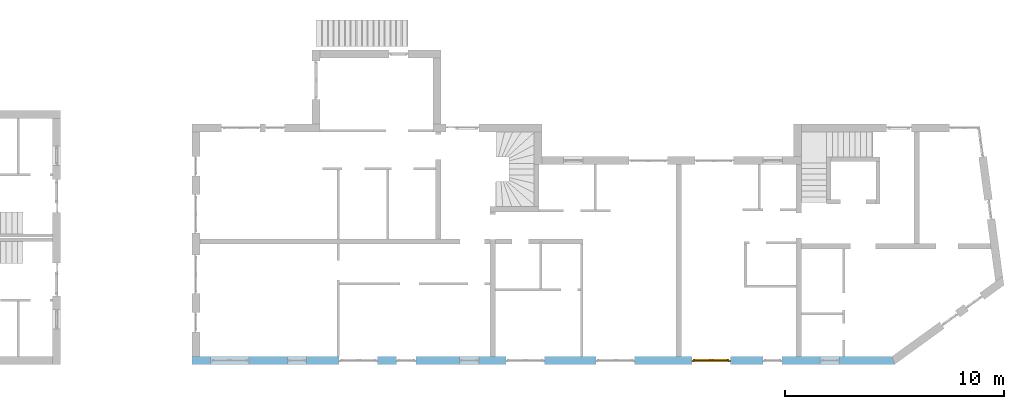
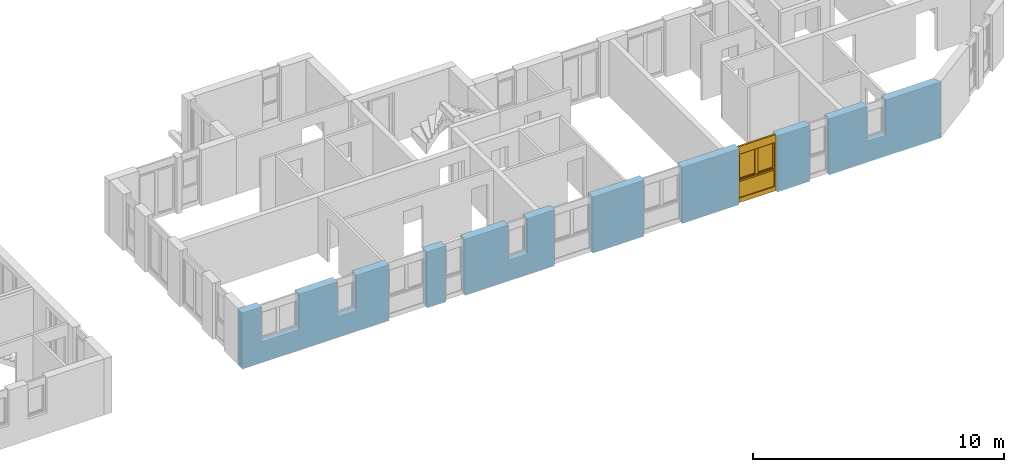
# One storey, part 24 of 41: 1 window, 10 openings, plus 1 element that does not belong to this part.
"""IFC2X3 building model written with IfcOpenShell, lengths in millimetres."""

from ifc_helpers import new_model, entity, si_unit, converted_unit, frame, frame_2d, origin, origin_with_axes, place, context, subcontext, project, spatial, polyline, rectangle, outline, extrude, faceted_brep, material, layer, layer_set, layer_usage, type_object, element, fill, save


model = new_model("IFC2X3")

# Units and contexts
model_context = context("Model", 3, precision=1e-05, world=origin())
body_context = subcontext(model_context, "Body", "Model", "MODEL_VIEW")
ifc_project = project(units=[si_unit("LENGTHUNIT", "METRE", prefix="MILLI"), converted_unit("PLANEANGLEUNIT", "DEGREE", entity("IfcPlaneAngleMeasure", 0.0174532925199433), si_unit("PLANEANGLEUNIT", "RADIAN"), dimensions=[0, 0, 0, 0, 0, 0, 0]), si_unit("AREAUNIT", "SQUARE_METRE"), si_unit("VOLUMEUNIT", "CUBIC_METRE")], contexts=[model_context])

# Building, storey
building_placement = place(None, origin())
building = spatial("IfcBuilding", under=ifc_project, at=building_placement, Name="Gebäude", CompositionType="ELEMENT")
storey_placement = place(building_placement, frame((0.0, 0.0, -200.0), z_axis=(0.0, 0.0, 1.0), x_axis=(1.0, 0.0, 0.0)))
storey = spatial("IfcBuildingStorey", under=building, at=storey_placement, Name="EG.- Grundriss", CompositionType="ELEMENT", Elevation=-200.0)

# Wall, openings, window
ifc_material_1 = material(Name="Poroton")
ifc_layer = layer(ifc_material_1, 365.0000000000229)
ifc_layer_set = layer_set([ifc_layer])
ifc_layer_usage = layer_usage(ifc_layer_set, "AXIS2", "POSITIVE", 0.0)
wall_placement = place(storey_placement, frame((148357.7928067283, 125274.8877324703, 0.0), z_axis=(0.0, 0.0, 1.0), x_axis=(1.0, -2.749268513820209e-11, 0.0)))
wall = element("IfcWallStandardCase", 1, at=wall_placement, inside=storey, material=ifc_layer_usage, Name="<Unnamed Element>", context=body_context, shape_type="SweptSolid", body=[
    extrude(outline(polyline([(0.0, 0.0), (32144.99999877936, 0.0), (32026.74038666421, 365.0000000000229), (-1.003483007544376e-08, 365.0), (0.0, 0.0)])), origin_with_axes(), (0.0, 0.0, 1.0), 2730.0),
])
opening_1_placement = place(wall_placement, frame((28740.29648749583, -1.103025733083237e-10, 1020.0), z_axis=(0.0, 1.0, 0.0), x_axis=(0.0, 0.0, 1.0)))
element("IfcOpeningElement", 2, at=opening_1_placement, cuts=wall, Name="Fensteröffnung", ObjectType="Opening", context=body_context, shape_type="SweptSolid", body=[
    extrude(rectangle(XDim=1710.0, YDim=885.0, at=frame_2d((855.0, 442.5), x_axis=(1.0, 0.0))), origin_with_axes(), (0.0, 0.0, 1.0), 365.0000000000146),
])
opening_2_placement = place(wall_placement, frame((26115.29648749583, -1.048456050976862e-10, 0.0), z_axis=(0.0, 1.0, 0.0), x_axis=(0.0, 0.0, 1.0)))
element("IfcOpeningElement", 3, at=opening_2_placement, cuts=wall, Name="Fensteröffnung", ObjectType="Opening", context=body_context, shape_type="SweptSolid", body=[
    extrude(rectangle(XDim=2730.0, YDim=885.0, at=frame_2d((1365.0, 442.5), x_axis=(1.0, 0.0))), origin_with_axes(), (0.0, 0.0, 1.0), 365.0000000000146),
])
opening_3_placement = place(wall_placement, frame((22865.29648749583, -7.937975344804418e-11, 0.0), z_axis=(0.0, 1.0, 0.0), x_axis=(0.0, 0.0, 1.0)))
opening_3 = element("IfcOpeningElement", 4, at=opening_3_placement, cuts=wall, Name="Fensteröffnung", ObjectType="Opening", context=body_context, shape_type="SweptSolid", body=[
    extrude(rectangle(XDim=2730.0, YDim=1760.0, at=frame_2d((1365.0, 880.0), x_axis=(1.0, 0.0))), origin_with_axes(), (0.0, 0.0, 1.0), 365.0000000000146),
])
opening_4_placement = place(wall_placement, frame((18490.51063065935, -4.984640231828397e-11, 0.0), z_axis=(0.0, 1.0, 0.0), x_axis=(0.0, 0.0, 1.0)))
element("IfcOpeningElement", 5, at=opening_4_placement, cuts=wall, Name="Fensteröffnung", ObjectType="Opening", context=body_context, shape_type="SweptSolid", body=[
    extrude(rectangle(XDim=2730.0, YDim=1760.0, at=frame_2d((1365.0, 880.0), x_axis=(1.0, 0.0))), origin_with_axes(), (0.0, 0.0, 1.0), 365.0000000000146),
])
opening_5_placement = place(wall_placement, frame((14365.26291871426, -7.302655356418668e-11, 0.0), z_axis=(0.0, 1.0, 0.0), x_axis=(0.0, 0.0, 1.0)))
element("IfcOpeningElement", 6, at=opening_5_placement, cuts=wall, Name="Fensteröffnung", ObjectType="Opening", context=body_context, shape_type="SweptSolid", body=[
    extrude(rectangle(XDim=2730.0, YDim=1760.0, at=frame_2d((1365.0, 880.0), x_axis=(1.0, 0.0))), origin_with_axes(), (0.0, 0.0, 1.0), 365.0000000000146),
])
opening_6_placement = place(wall_placement, frame((12240.0, -5.296897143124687e-11, 1020.0), z_axis=(0.0, 1.0, 0.0), x_axis=(0.0, 0.0, 1.0)))
element("IfcOpeningElement", 7, at=opening_6_placement, cuts=wall, Name="Fensteröffnung", ObjectType="Opening", context=body_context, shape_type="SweptSolid", body=[
    extrude(rectangle(XDim=1710.0, YDim=885.0, at=frame_2d((855.0, 442.5), x_axis=(1.0, 0.0))), origin_with_axes(), (0.0, 0.0, 1.0), 365.0000000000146),
])
opening_7_placement = place(wall_placement, frame((9365.0, -3.659806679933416e-11, 0.0), z_axis=(0.0, 1.0, 0.0), x_axis=(0.0, 0.0, 1.0)))
element("IfcOpeningElement", 8, at=opening_7_placement, cuts=wall, Name="Fensteröffnung", ObjectType="Opening", context=body_context, shape_type="SweptSolid", body=[
    extrude(rectangle(XDim=2730.0, YDim=885.0, at=frame_2d((1365.0, 442.5), x_axis=(1.0, 0.0))), origin_with_axes(), (0.0, 0.0, 1.0), 365.0000000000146),
])
opening_8_placement = place(wall_placement, frame((6740.0, -3.114109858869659e-11, 0.0), z_axis=(0.0, 1.0, 0.0), x_axis=(0.0, 0.0, 1.0)))
element("IfcOpeningElement", 9, at=opening_8_placement, cuts=wall, Name="Fensteröffnung", ObjectType="Opening", context=body_context, shape_type="SweptSolid", body=[
    extrude(rectangle(XDim=2730.0, YDim=1760.0, at=frame_2d((1365.0, 880.0), x_axis=(1.0, 0.0))), origin_with_axes(), (0.0, 0.0, 1.0), 365.0000000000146),
])
opening_9_placement = place(wall_placement, frame((4365.0, -7.494236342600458e-12, 1020.0), z_axis=(0.0, 1.0, 0.0), x_axis=(0.0, 0.0, 1.0)))
element("IfcOpeningElement", 10, at=opening_9_placement, cuts=wall, Name="Fensteröffnung", ObjectType="Opening", context=body_context, shape_type="SweptSolid", body=[
    extrude(rectangle(XDim=1710.0, YDim=885.0, at=frame_2d((855.0, 442.5), x_axis=(1.0, 0.0))), origin_with_axes(), (0.0, 0.0, 1.0), 365.0000000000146),
])
opening_10_placement = place(wall_placement, frame((865.0, -2.182787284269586e-13, 1020.0), z_axis=(0.0, 1.0, 0.0), x_axis=(0.0, 0.0, 1.0)))
element("IfcOpeningElement", 11, at=opening_10_placement, cuts=wall, Name="Fensteröffnung", ObjectType="Opening", context=body_context, shape_type="SweptSolid", body=[
    extrude(rectangle(XDim=1710.0, YDim=1760.0, at=frame_2d((854.9999999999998, 880.0), x_axis=(1.0, 0.0))), origin_with_axes(), (0.0, 0.0, 1.0), 365.0000000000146),
])
ifc_material_2 = material()
window_style = type_object("IfcWindowStyle", Name="Fenster", ConstructionType="NOTDEFINED", OperationType="USERDEFINED", ParameterTakesPrecedence=False, Sizeable=False)
window_placement = place(opening_3_placement, frame((0.0, 0.0, 0.0), z_axis=(1.0, 0.0, 0.0), x_axis=(0.0, 1.0, 0.0)))
window = element("IfcWindow", 12, at=window_placement, inside=storey, type_object=window_style, material=ifc_material_2, Name="Fenster", OverallHeight=2730.0, OverallWidth=1760.0, context=body_context, shape_type="Brep", body=[
    faceted_brep([(-1.221113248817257e-08, 199.999999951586, 2730.0), (-1.221113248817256e-08, 199.9999999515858, -2.449293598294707e-15), (69.99999998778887, 199.9999999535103, -2.449293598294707e-15), (69.99999998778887, 199.9999999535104, 2730.0), (-1.001171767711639e-08, 119.9999999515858, 2.449293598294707e-15), (-1.00117176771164e-08, 119.999999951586, 2730.0), (69.99999998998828, 119.9999999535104, 2730.0), (69.99999998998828, 119.9999999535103, 2.449293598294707e-15), (-1.221113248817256e-08, 199.9999999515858, -2.449293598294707e-15), (-1.221113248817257e-08, 199.999999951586, 2730.0), (-1.00117176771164e-08, 119.999999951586, 2730.0), (-1.001171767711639e-08, 119.9999999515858, 2.449293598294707e-15), (69.99999998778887, 199.9999999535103, -2.449293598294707e-15), (-1.221113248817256e-08, 199.9999999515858, -2.449293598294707e-15), (-1.001171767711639e-08, 119.9999999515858, 2.449293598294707e-15), (69.99999998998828, 119.9999999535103, 2.449293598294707e-15), (69.99999998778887, 199.9999999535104, 2730.0), (69.99999998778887, 199.9999999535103, -2.449293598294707e-15), (69.99999998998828, 119.9999999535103, 2.449293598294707e-15), (69.99999998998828, 119.9999999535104, 2730.0), (-1.221113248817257e-08, 199.999999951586, 2730.0), (69.99999998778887, 199.9999999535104, 2730.0), (69.99999998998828, 119.9999999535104, 2730.0), (-1.00117176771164e-08, 119.999999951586, 2730.0)], [[[0, 1, 2, 3]], [[4, 5, 6, 7]], [[8, 9, 10, 11]], [[12, 13, 14, 15]], [[16, 17, 18, 19]], [[20, 21, 22, 23]]], orient=[[False], [False], [False], [False], [False], [False]]),
    faceted_brep([(1689.999999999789, 199.9999999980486, 2730.0), (1689.999999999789, 199.9999999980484, -2.449293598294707e-15), (1759.999999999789, 199.9999999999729, -2.449293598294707e-15), (1759.999999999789, 199.9999999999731, 2730.0), (1690.000000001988, 119.9999999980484, 2.449293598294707e-15), (1690.000000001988, 119.9999999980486, 2730.0), (1760.000000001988, 119.9999999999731, 2730.0), (1760.000000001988, 119.9999999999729, 2.449293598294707e-15), (1689.999999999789, 199.9999999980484, -2.449293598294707e-15), (1689.999999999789, 199.9999999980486, 2730.0), (1690.000000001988, 119.9999999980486, 2730.0), (1690.000000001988, 119.9999999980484, 2.449293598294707e-15), (1759.999999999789, 199.9999999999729, -2.449293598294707e-15), (1689.999999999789, 199.9999999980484, -2.449293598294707e-15), (1690.000000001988, 119.9999999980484, 2.449293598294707e-15), (1760.000000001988, 119.9999999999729, 2.449293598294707e-15), (1759.999999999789, 199.9999999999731, 2730.0), (1759.999999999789, 199.9999999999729, -2.449293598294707e-15), (1760.000000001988, 119.9999999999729, 2.449293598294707e-15), (1760.000000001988, 119.9999999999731, 2730.0), (1689.999999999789, 199.9999999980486, 2730.0), (1759.999999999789, 199.9999999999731, 2730.0), (1760.000000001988, 119.9999999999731, 2730.0), (1690.000000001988, 119.9999999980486, 2730.0)], [[[0, 1, 2, 3]], [[4, 5, 6, 7]], [[8, 9, 10, 11]], [[12, 13, 14, 15]], [[16, 17, 18, 19]], [[20, 21, 22, 23]]], orient=[[False], [False], [False], [False], [False], [False]]),
    faceted_brep([(69.99999998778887, 199.9999999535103, 220.0), (69.99999998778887, 199.9999999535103, -2.449293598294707e-15), (1689.999999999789, 199.9999999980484, -2.449293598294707e-15), (1689.999999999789, 199.9999999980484, 220.0), (69.99999998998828, 119.9999999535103, 2.449293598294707e-15), (69.99999998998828, 119.9999999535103, 220.0), (1690.000000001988, 119.9999999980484, 220.0), (1690.000000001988, 119.9999999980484, 2.449293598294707e-15), (69.99999998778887, 199.9999999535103, -2.449293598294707e-15), (69.99999998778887, 199.9999999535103, 220.0), (69.99999998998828, 119.9999999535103, 220.0), (69.99999998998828, 119.9999999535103, 2.449293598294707e-15), (1689.999999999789, 199.9999999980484, -2.449293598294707e-15), (69.99999998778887, 199.9999999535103, -2.449293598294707e-15), (69.99999998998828, 119.9999999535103, 2.449293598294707e-15), (1690.000000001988, 119.9999999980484, 2.449293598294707e-15), (1689.999999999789, 199.9999999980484, 220.0), (1689.999999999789, 199.9999999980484, -2.449293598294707e-15), (1690.000000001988, 119.9999999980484, 2.449293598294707e-15), (1690.000000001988, 119.9999999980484, 220.0), (69.99999998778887, 199.9999999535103, 220.0), (1689.999999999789, 199.9999999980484, 220.0), (1690.000000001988, 119.9999999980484, 220.0), (69.99999998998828, 119.9999999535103, 220.0)], [[[0, 1, 2, 3]], [[4, 5, 6, 7]], [[8, 9, 10, 11]], [[12, 13, 14, 15]], [[16, 17, 18, 19]], [[20, 21, 22, 23]]], orient=[[False], [False], [False], [False], [False], [False]]),
    faceted_brep([(69.99999998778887, 199.9999999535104, 2730.0), (69.99999998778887, 199.9999999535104, 2360.0), (1689.999999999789, 199.9999999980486, 2360.0), (1689.999999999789, 199.9999999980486, 2730.0), (69.99999998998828, 119.9999999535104, 2360.0), (69.99999998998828, 119.9999999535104, 2730.0), (1690.000000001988, 119.9999999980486, 2730.0), (1690.000000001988, 119.9999999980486, 2360.0), (69.99999998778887, 199.9999999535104, 2360.0), (69.99999998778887, 199.9999999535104, 2730.0), (69.99999998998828, 119.9999999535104, 2730.0), (69.99999998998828, 119.9999999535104, 2360.0), (1689.999999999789, 199.9999999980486, 2360.0), (69.99999998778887, 199.9999999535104, 2360.0), (69.99999998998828, 119.9999999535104, 2360.0), (1690.000000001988, 119.9999999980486, 2360.0), (1689.999999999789, 199.9999999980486, 2730.0), (1689.999999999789, 199.9999999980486, 2360.0), (1690.000000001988, 119.9999999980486, 2360.0), (1690.000000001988, 119.9999999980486, 2730.0), (69.99999998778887, 199.9999999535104, 2730.0), (1689.999999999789, 199.9999999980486, 2730.0), (1690.000000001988, 119.9999999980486, 2730.0), (69.99999998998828, 119.9999999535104, 2730.0)], [[[0, 1, 2, 3]], [[4, 5, 6, 7]], [[8, 9, 10, 11]], [[12, 13, 14, 15]], [[16, 17, 18, 19]], [[20, 21, 22, 23]]], orient=[[False], [False], [False], [False], [False], [False]]),
    faceted_brep([(69.99999998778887, 199.9999999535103, 1090.0), (69.99999998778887, 199.9999999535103, 1020.0), (1689.999999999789, 199.9999999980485, 1020.0), (1689.999999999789, 199.9999999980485, 1090.0), (69.99999998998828, 119.9999999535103, 1020.0), (69.99999998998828, 119.9999999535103, 1090.0), (1690.000000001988, 119.9999999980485, 1090.0), (1690.000000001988, 119.9999999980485, 1020.0), (69.99999998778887, 199.9999999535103, 1020.0), (69.99999998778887, 199.9999999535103, 1090.0), (69.99999998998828, 119.9999999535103, 1090.0), (69.99999998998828, 119.9999999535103, 1020.0), (1689.999999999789, 199.9999999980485, 1020.0), (69.99999998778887, 199.9999999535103, 1020.0), (69.99999998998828, 119.9999999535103, 1020.0), (1690.000000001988, 119.9999999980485, 1020.0), (1689.999999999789, 199.9999999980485, 1090.0), (1689.999999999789, 199.9999999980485, 1020.0), (1690.000000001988, 119.9999999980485, 1020.0), (1690.000000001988, 119.9999999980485, 1090.0), (69.99999998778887, 199.9999999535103, 1090.0), (1689.999999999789, 199.9999999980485, 1090.0), (1690.000000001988, 119.9999999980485, 1090.0), (69.99999998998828, 119.9999999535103, 1090.0)], [[[0, 1, 2, 3]], [[4, 5, 6, 7]], [[8, 9, 10, 11]], [[12, 13, 14, 15]], [[16, 17, 18, 19]], [[20, 21, 22, 23]]], orient=[[False], [False], [False], [False], [False], [False]]),
    faceted_brep([(69.99999998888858, 159.9999999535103, 220.0), (1690.000000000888, 159.9999999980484, 220.0), (1690.000000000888, 159.9999999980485, 1020.0), (69.99999998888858, 159.9999999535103, 1020.0), (69.99999998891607, 158.9999999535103, 220.0), (69.99999998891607, 158.9999999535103, 1020.0), (1690.000000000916, 158.9999999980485, 1020.0), (1690.000000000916, 158.9999999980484, 220.0), (69.99999998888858, 159.9999999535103, 220.0), (69.99999998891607, 158.9999999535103, 220.0), (1690.000000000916, 158.9999999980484, 220.0), (1690.000000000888, 159.9999999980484, 220.0), (1690.000000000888, 159.9999999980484, 220.0), (1690.000000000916, 158.9999999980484, 220.0), (1690.000000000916, 158.9999999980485, 1020.0), (1690.000000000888, 159.9999999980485, 1020.0), (1690.000000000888, 159.9999999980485, 1020.0), (1690.000000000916, 158.9999999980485, 1020.0), (69.99999998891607, 158.9999999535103, 1020.0), (69.99999998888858, 159.9999999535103, 1020.0), (69.99999998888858, 159.9999999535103, 1020.0), (69.99999998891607, 158.9999999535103, 1020.0), (69.99999998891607, 158.9999999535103, 220.0), (69.99999998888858, 159.9999999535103, 220.0)], [[[0, 1, 2, 3]], [[4, 5, 6, 7]], [[8, 9, 10, 11]], [[12, 13, 14, 15]], [[16, 17, 18, 19]], [[20, 21, 22, 23]]], orient=[[False], [False], [False], [False], [False], [False]]),
    faceted_brep([(49.99999998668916, 239.9999999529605, 2380.0), (49.99999998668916, 239.9999999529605, 1070.0), (119.9999999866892, 239.999999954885, 1070.0), (119.9999999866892, 239.999999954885, 2380.0), (49.99999998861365, 169.9999999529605, 1070.0), (49.99999998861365, 169.9999999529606, 2380.0), (119.9999999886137, 169.999999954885, 2380.0), (119.9999999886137, 169.999999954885, 1070.0), (49.99999998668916, 239.9999999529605, 1070.0), (49.99999998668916, 239.9999999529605, 2380.0), (49.99999998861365, 169.9999999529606, 2380.0), (49.99999998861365, 169.9999999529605, 1070.0), (119.9999999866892, 239.999999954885, 1070.0), (49.99999998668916, 239.9999999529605, 1070.0), (49.99999998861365, 169.9999999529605, 1070.0), (119.9999999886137, 169.999999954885, 1070.0), (119.9999999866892, 239.999999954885, 2380.0), (119.9999999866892, 239.999999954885, 1070.0), (119.9999999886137, 169.999999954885, 1070.0), (119.9999999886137, 169.999999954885, 2380.0), (49.99999998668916, 239.9999999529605, 2380.0), (119.9999999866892, 239.999999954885, 2380.0), (119.9999999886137, 169.999999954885, 2380.0), (49.99999998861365, 169.9999999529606, 2380.0)], [[[0, 1, 2, 3]], [[4, 5, 6, 7]], [[8, 9, 10, 11]], [[12, 13, 14, 15]], [[16, 17, 18, 19]], [[20, 21, 22, 23]]], orient=[[False], [False], [False], [False], [False], [False]]),
    faceted_brep([(829.4999999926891, 239.9999999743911, 2380.0), (829.4999999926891, 239.999999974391, 1070.0), (899.4999999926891, 239.9999999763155, 1070.0), (899.4999999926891, 239.9999999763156, 2380.0), (829.4999999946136, 169.999999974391, 1070.0), (829.4999999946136, 169.9999999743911, 2380.0), (899.4999999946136, 169.9999999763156, 2380.0), (899.4999999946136, 169.9999999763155, 1070.0), (829.4999999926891, 239.999999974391, 1070.0), (829.4999999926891, 239.9999999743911, 2380.0), (829.4999999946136, 169.9999999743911, 2380.0), (829.4999999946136, 169.999999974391, 1070.0), (899.4999999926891, 239.9999999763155, 1070.0), (829.4999999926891, 239.999999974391, 1070.0), (829.4999999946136, 169.999999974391, 1070.0), (899.4999999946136, 169.9999999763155, 1070.0), (899.4999999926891, 239.9999999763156, 2380.0), (899.4999999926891, 239.9999999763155, 1070.0), (899.4999999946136, 169.9999999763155, 1070.0), (899.4999999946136, 169.9999999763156, 2380.0), (829.4999999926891, 239.9999999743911, 2380.0), (899.4999999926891, 239.9999999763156, 2380.0), (899.4999999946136, 169.9999999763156, 2380.0), (829.4999999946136, 169.9999999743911, 2380.0)], [[[0, 1, 2, 3]], [[4, 5, 6, 7]], [[8, 9, 10, 11]], [[12, 13, 14, 15]], [[16, 17, 18, 19]], [[20, 21, 22, 23]]], orient=[[False], [False], [False], [False], [False], [False]]),
    faceted_brep([(119.9999999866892, 239.999999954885, 1140.0), (119.9999999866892, 239.999999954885, 1070.0), (829.4999999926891, 239.999999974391, 1070.0), (829.4999999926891, 239.999999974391, 1140.0), (119.9999999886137, 169.999999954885, 1070.0), (119.9999999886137, 169.999999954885, 1140.0), (829.4999999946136, 169.999999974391, 1140.0), (829.4999999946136, 169.999999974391, 1070.0), (119.9999999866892, 239.999999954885, 1070.0), (119.9999999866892, 239.999999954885, 1140.0), (119.9999999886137, 169.999999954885, 1140.0), (119.9999999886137, 169.999999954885, 1070.0), (829.4999999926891, 239.999999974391, 1070.0), (119.9999999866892, 239.999999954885, 1070.0), (119.9999999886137, 169.999999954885, 1070.0), (829.4999999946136, 169.999999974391, 1070.0), (829.4999999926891, 239.999999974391, 1140.0), (829.4999999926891, 239.999999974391, 1070.0), (829.4999999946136, 169.999999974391, 1070.0), (829.4999999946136, 169.999999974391, 1140.0), (119.9999999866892, 239.999999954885, 1140.0), (829.4999999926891, 239.999999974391, 1140.0), (829.4999999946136, 169.999999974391, 1140.0), (119.9999999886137, 169.999999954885, 1140.0)], [[[0, 1, 2, 3]], [[4, 5, 6, 7]], [[8, 9, 10, 11]], [[12, 13, 14, 15]], [[16, 17, 18, 19]], [[20, 21, 22, 23]]], orient=[[False], [False], [False], [False], [False], [False]]),
    faceted_brep([(119.9999999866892, 239.999999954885, 2380.0), (119.9999999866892, 239.999999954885, 2310.0), (829.4999999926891, 239.9999999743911, 2310.0), (829.4999999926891, 239.9999999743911, 2380.0), (119.9999999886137, 169.999999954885, 2310.0), (119.9999999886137, 169.999999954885, 2380.0), (829.4999999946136, 169.9999999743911, 2380.0), (829.4999999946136, 169.9999999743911, 2310.0), (119.9999999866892, 239.999999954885, 2310.0), (119.9999999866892, 239.999999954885, 2380.0), (119.9999999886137, 169.999999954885, 2380.0), (119.9999999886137, 169.999999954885, 2310.0), (829.4999999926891, 239.9999999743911, 2310.0), (119.9999999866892, 239.999999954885, 2310.0), (119.9999999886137, 169.999999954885, 2310.0), (829.4999999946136, 169.9999999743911, 2310.0), (829.4999999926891, 239.9999999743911, 2380.0), (829.4999999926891, 239.9999999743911, 2310.0), (829.4999999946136, 169.9999999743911, 2310.0), (829.4999999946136, 169.9999999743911, 2380.0), (119.9999999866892, 239.999999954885, 2380.0), (829.4999999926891, 239.9999999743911, 2380.0), (829.4999999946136, 169.9999999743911, 2380.0), (119.9999999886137, 169.999999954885, 2380.0)], [[[0, 1, 2, 3]], [[4, 5, 6, 7]], [[8, 9, 10, 11]], [[12, 13, 14, 15]], [[16, 17, 18, 19]], [[20, 21, 22, 23]]], orient=[[False], [False], [False], [False], [False], [False]]),
    faceted_brep([(900.4999999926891, 239.9999999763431, 2380.0), (900.4999999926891, 239.999999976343, 1070.0), (970.4999999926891, 239.9999999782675, 1070.0), (970.4999999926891, 239.9999999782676, 2380.0), (900.4999999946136, 169.999999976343, 1070.0), (900.4999999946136, 169.9999999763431, 2380.0), (970.4999999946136, 169.9999999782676, 2380.0), (970.4999999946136, 169.9999999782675, 1070.0), (900.4999999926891, 239.999999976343, 1070.0), (900.4999999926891, 239.9999999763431, 2380.0), (900.4999999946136, 169.9999999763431, 2380.0), (900.4999999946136, 169.999999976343, 1070.0), (970.4999999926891, 239.9999999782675, 1070.0), (900.4999999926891, 239.999999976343, 1070.0), (900.4999999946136, 169.999999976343, 1070.0), (970.4999999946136, 169.9999999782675, 1070.0), (970.4999999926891, 239.9999999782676, 2380.0), (970.4999999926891, 239.9999999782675, 1070.0), (970.4999999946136, 169.9999999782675, 1070.0), (970.4999999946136, 169.9999999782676, 2380.0), (900.4999999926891, 239.9999999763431, 2380.0), (970.4999999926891, 239.9999999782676, 2380.0), (970.4999999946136, 169.9999999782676, 2380.0), (900.4999999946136, 169.9999999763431, 2380.0)], [[[0, 1, 2, 3]], [[4, 5, 6, 7]], [[8, 9, 10, 11]], [[12, 13, 14, 15]], [[16, 17, 18, 19]], [[20, 21, 22, 23]]], orient=[[False], [False], [False], [False], [False], [False]]),
    faceted_brep([(1639.999999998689, 239.9999999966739, 2380.0), (1639.999999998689, 239.9999999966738, 1070.0), (1709.999999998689, 239.9999999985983, 1070.0), (1709.999999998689, 239.9999999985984, 2380.0), (1640.000000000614, 169.9999999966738, 1070.0), (1640.000000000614, 169.9999999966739, 2380.0), (1710.000000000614, 169.9999999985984, 2380.0), (1710.000000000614, 169.9999999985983, 1070.0), (1639.999999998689, 239.9999999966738, 1070.0), (1639.999999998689, 239.9999999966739, 2380.0), (1640.000000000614, 169.9999999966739, 2380.0), (1640.000000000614, 169.9999999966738, 1070.0), (1709.999999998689, 239.9999999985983, 1070.0), (1639.999999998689, 239.9999999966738, 1070.0), (1640.000000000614, 169.9999999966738, 1070.0), (1710.000000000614, 169.9999999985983, 1070.0), (1709.999999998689, 239.9999999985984, 2380.0), (1709.999999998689, 239.9999999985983, 1070.0), (1710.000000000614, 169.9999999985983, 1070.0), (1710.000000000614, 169.9999999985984, 2380.0), (1639.999999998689, 239.9999999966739, 2380.0), (1709.999999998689, 239.9999999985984, 2380.0), (1710.000000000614, 169.9999999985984, 2380.0), (1640.000000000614, 169.9999999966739, 2380.0)], [[[0, 1, 2, 3]], [[4, 5, 6, 7]], [[8, 9, 10, 11]], [[12, 13, 14, 15]], [[16, 17, 18, 19]], [[20, 21, 22, 23]]], orient=[[False], [False], [False], [False], [False], [False]]),
    faceted_brep([(970.4999999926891, 239.9999999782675, 1140.0), (970.4999999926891, 239.9999999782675, 1070.0), (1639.999999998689, 239.9999999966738, 1070.0), (1639.999999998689, 239.9999999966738, 1140.0), (970.4999999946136, 169.9999999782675, 1070.0), (970.4999999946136, 169.9999999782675, 1140.0), (1640.000000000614, 169.9999999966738, 1140.0), (1640.000000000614, 169.9999999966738, 1070.0), (970.4999999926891, 239.9999999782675, 1070.0), (970.4999999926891, 239.9999999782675, 1140.0), (970.4999999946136, 169.9999999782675, 1140.0), (970.4999999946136, 169.9999999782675, 1070.0), (1639.999999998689, 239.9999999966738, 1070.0), (970.4999999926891, 239.9999999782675, 1070.0), (970.4999999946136, 169.9999999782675, 1070.0), (1640.000000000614, 169.9999999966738, 1070.0), (1639.999999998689, 239.9999999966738, 1140.0), (1639.999999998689, 239.9999999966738, 1070.0), (1640.000000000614, 169.9999999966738, 1070.0), (1640.000000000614, 169.9999999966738, 1140.0), (970.4999999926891, 239.9999999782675, 1140.0), (1639.999999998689, 239.9999999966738, 1140.0), (1640.000000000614, 169.9999999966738, 1140.0), (970.4999999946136, 169.9999999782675, 1140.0)], [[[0, 1, 2, 3]], [[4, 5, 6, 7]], [[8, 9, 10, 11]], [[12, 13, 14, 15]], [[16, 17, 18, 19]], [[20, 21, 22, 23]]], orient=[[False], [False], [False], [False], [False], [False]]),
    faceted_brep([(970.4999999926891, 239.9999999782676, 2380.0), (970.4999999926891, 239.9999999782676, 2310.0), (1639.999999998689, 239.9999999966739, 2310.0), (1639.999999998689, 239.9999999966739, 2380.0), (970.4999999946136, 169.9999999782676, 2310.0), (970.4999999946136, 169.9999999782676, 2380.0), (1640.000000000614, 169.9999999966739, 2380.0), (1640.000000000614, 169.9999999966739, 2310.0), (970.4999999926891, 239.9999999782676, 2310.0), (970.4999999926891, 239.9999999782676, 2380.0), (970.4999999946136, 169.9999999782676, 2380.0), (970.4999999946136, 169.9999999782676, 2310.0), (1639.999999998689, 239.9999999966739, 2310.0), (970.4999999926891, 239.9999999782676, 2310.0), (970.4999999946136, 169.9999999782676, 2310.0), (1640.000000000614, 169.9999999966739, 2310.0), (1639.999999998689, 239.9999999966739, 2380.0), (1639.999999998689, 239.9999999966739, 2310.0), (1640.000000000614, 169.9999999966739, 2310.0), (1640.000000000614, 169.9999999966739, 2380.0), (970.4999999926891, 239.9999999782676, 2380.0), (1639.999999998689, 239.9999999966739, 2380.0), (1640.000000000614, 169.9999999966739, 2380.0), (970.4999999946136, 169.9999999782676, 2380.0)], [[[0, 1, 2, 3]], [[4, 5, 6, 7]], [[8, 9, 10, 11]], [[12, 13, 14, 15]], [[16, 17, 18, 19]], [[20, 21, 22, 23]]], orient=[[False], [False], [False], [False], [False], [False]]),
    faceted_brep([(119.9999999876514, 204.999999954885, 1140.0), (829.4999999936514, 204.9999999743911, 1140.0), (829.4999999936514, 204.9999999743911, 2310.0), (119.9999999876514, 204.9999999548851, 2310.0), (119.9999999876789, 203.999999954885, 1140.0), (119.9999999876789, 203.9999999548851, 2310.0), (829.4999999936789, 203.9999999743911, 2310.0), (829.4999999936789, 203.9999999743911, 1140.0), (119.9999999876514, 204.999999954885, 1140.0), (119.9999999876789, 203.999999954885, 1140.0), (829.4999999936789, 203.9999999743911, 1140.0), (829.4999999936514, 204.9999999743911, 1140.0), (829.4999999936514, 204.9999999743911, 1140.0), (829.4999999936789, 203.9999999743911, 1140.0), (829.4999999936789, 203.9999999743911, 2310.0), (829.4999999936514, 204.9999999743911, 2310.0), (829.4999999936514, 204.9999999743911, 2310.0), (829.4999999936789, 203.9999999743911, 2310.0), (119.9999999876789, 203.9999999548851, 2310.0), (119.9999999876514, 204.9999999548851, 2310.0), (119.9999999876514, 204.9999999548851, 2310.0), (119.9999999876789, 203.9999999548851, 2310.0), (119.9999999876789, 203.999999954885, 1140.0), (119.9999999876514, 204.999999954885, 1140.0)], [[[0, 1, 2, 3]], [[4, 5, 6, 7]], [[8, 9, 10, 11]], [[12, 13, 14, 15]], [[16, 17, 18, 19]], [[20, 21, 22, 23]]], orient=[[False], [False], [False], [False], [False], [False]]),
    faceted_brep([(970.4999999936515, 204.9999999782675, 1140.0), (1639.999999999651, 204.9999999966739, 1140.0), (1639.999999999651, 204.9999999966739, 2310.0), (970.4999999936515, 204.9999999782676, 2310.0), (970.499999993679, 203.9999999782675, 1140.0), (970.499999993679, 203.9999999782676, 2310.0), (1639.999999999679, 203.9999999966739, 2310.0), (1639.999999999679, 203.9999999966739, 1140.0), (970.4999999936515, 204.9999999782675, 1140.0), (970.499999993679, 203.9999999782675, 1140.0), (1639.999999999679, 203.9999999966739, 1140.0), (1639.999999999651, 204.9999999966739, 1140.0), (1639.999999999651, 204.9999999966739, 1140.0), (1639.999999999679, 203.9999999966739, 1140.0), (1639.999999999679, 203.9999999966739, 2310.0), (1639.999999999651, 204.9999999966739, 2310.0), (1639.999999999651, 204.9999999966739, 2310.0), (1639.999999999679, 203.9999999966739, 2310.0), (970.499999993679, 203.9999999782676, 2310.0), (970.4999999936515, 204.9999999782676, 2310.0), (970.4999999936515, 204.9999999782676, 2310.0), (970.499999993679, 203.9999999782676, 2310.0), (970.499999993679, 203.9999999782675, 1140.0), (970.4999999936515, 204.9999999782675, 1140.0)], [[[0, 1, 2, 3]], [[4, 5, 6, 7]], [[8, 9, 10, 11]], [[12, 13, 14, 15]], [[16, 17, 18, 19]], [[20, 21, 22, 23]]], orient=[[False], [False], [False], [False], [False], [False]]),
])
fill(opening_3, window)

save(model, "model.ifc")
